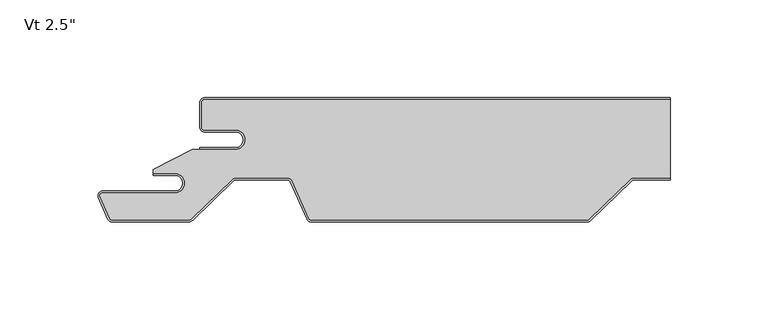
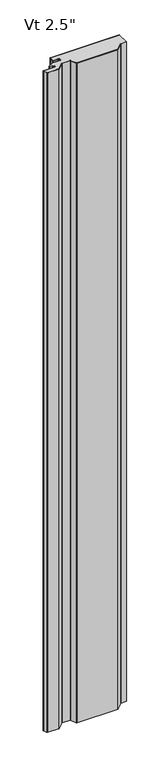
"""IFC4 building model written with IfcOpenShell, lengths in millimetres: plate geometry."""

import ifcopenshell
import ifcopenshell.guid

model = None  # the IFC model being written
_history = None  # IfcOwnerHistory: only IFC2X3 demands one
_inside = {}  # id of a spatial element -> (the spatial element, [elements in it])
_under = {}  # id of a project, library or spatial element -> (it, [spatial elements below it])
_declared = {}  # id of a project -> (the project, [libraries it declares])
_typed = {}  # id of a type object -> (the type object, [elements of that type])
_made_of = {}  # id of a material, layer set ... -> (it, [elements and type objects made of it])


def new_model(schema):
    """Start an empty IFC model of exactly this schema.

    Asked for "IFC4X3", IfcOpenShell would pick the latest addendum, in which some entities
    have other attributes; the version numbers below select the first issue.
    IFC2X3 requires an IfcOwnerHistory on every rooted entity: one is made here for all.
    """
    global model, _history
    if schema == "IFC4X3":
        model = ifcopenshell.file(schema_version=(4, 3, 0, 0))
    else:
        model = ifcopenshell.file(schema=schema)
    _inside.clear()
    _under.clear()
    _declared.clear()
    _typed.clear()
    _made_of.clear()
    _history = None
    if model.schema == "IFC2X3":
        org = make("IfcOrganization", Name="unknown")
        user = make(
            "IfcPersonAndOrganization",
            ThePerson=make("IfcPerson", FamilyName="unknown"),
            TheOrganization=org,
        )
        app = make(
            "IfcApplication",
            ApplicationDeveloper=org,
            Version="unknown",
            ApplicationFullName="unknown",
            ApplicationIdentifier="unknown",
        )
        _history = make(
            "IfcOwnerHistory",
            OwningUser=user,
            OwningApplication=app,
            ChangeAction="ADDED",
            CreationDate=0,
        )
    return model


def make(cls, **values):
    """One entity of the class cls with the attributes given. An attribute that is None is left unset."""
    return model.create_entity(
        cls, **{name: value for name, value in values.items() if value is not None}
    )


def rooted(cls, **values):
    """An entity with a GlobalId (a new one), such as an element, a storey or a relation."""
    return make(cls, GlobalId=ifcopenshell.guid.new(), OwnerHistory=_history, **values)


def si_unit(unit_type, name, prefix=None):
    """IfcSIUnit, for example si_unit("LENGTHUNIT", "METRE", prefix="MILLI")."""
    return make("IfcSIUnit", UnitType=unit_type, Prefix=prefix, Name=name)


def assignment(units):
    """IfcUnitAssignment: the units of a project."""
    return None if units is None else make("IfcUnitAssignment", Units=units)


def point(xyz):
    """IfcCartesianPoint."""
    return None if xyz is None else make("IfcCartesianPoint", Coordinates=xyz)


def direction(xyz):
    """IfcDirection."""
    return None if xyz is None else make("IfcDirection", DirectionRatios=xyz)


def frame(location, z_axis=None, x_axis=None):
    """IfcAxis2Placement3D, a coordinate frame: its origin and axes. An axis left out is left unset."""
    return make(
        "IfcAxis2Placement3D",
        Location=point(location),
        Axis=direction(z_axis),
        RefDirection=direction(x_axis),
    )


def frame_2d(location, x_axis=None):
    """IfcAxis2Placement2D, a coordinate frame in the plane: its origin and x axis."""
    return make(
        "IfcAxis2Placement2D", Location=point(location), RefDirection=direction(x_axis)
    )


def origin():
    """The frame at (0, 0, 0) with its axes left unset."""
    return frame((0.0, 0.0, 0.0))


def origin_with_axes():
    """The frame at (0, 0, 0) with the z axis (0, 0, 1) and the x axis (1, 0, 0) written out."""
    return frame((0.0, 0.0, 0.0), z_axis=(0.0, 0.0, 1.0), x_axis=(1.0, 0.0, 0.0))


def place(relative_to, where):
    """IfcLocalPlacement: puts the frame where relative to a parent placement (None: the world)."""
    return make(
        "IfcLocalPlacement", PlacementRelTo=relative_to, RelativePlacement=where
    )


def context(
    kind, dimensions, precision=None, world=None, true_north=None, identifier=None
):
    """IfcGeometricRepresentationContext, for example the 3D "Model" context."""
    return make(
        "IfcGeometricRepresentationContext",
        ContextIdentifier=identifier,
        ContextType=kind,
        CoordinateSpaceDimension=dimensions,
        Precision=precision,
        WorldCoordinateSystem=world,
        TrueNorth=true_north,
    )


def project(units=None, contexts=None):
    """IfcProject with its units and contexts."""
    return rooted(
        "IfcProject",
        Name="project",
        RepresentationContexts=contexts,
        UnitsInContext=assignment(units),
    )


def spatial(cls, under=None, at=None, **own):
    """A site, building, storey or space (cls), placed at a placement, below another one or the project."""
    s = rooted(cls, ObjectPlacement=at, **own)
    if under is not None:
        _under.setdefault(under.id(), (under, []))[1].append(s)
    return s


def polyline(points):
    """IfcPolyline through the points."""
    return make("IfcPolyline", Points=[point(p) for p in points])


def circle_curve(where, radius):
    """IfcCircle in the frame where."""
    return make("IfcCircle", Position=where, Radius=radius)


def trimmed(basis, trim1, trim2, sense, master):
    """IfcTrimmedCurve: the piece of a basis curve between two trims."""
    return make(
        "IfcTrimmedCurve",
        BasisCurve=basis,
        Trim1=trim1,
        Trim2=trim2,
        SenseAgreement=sense,
        MasterRepresentation=master,
    )


def segment(curve, same_sense, transition):
    """IfcCompositeCurveSegment."""
    return make(
        "IfcCompositeCurveSegment",
        Transition=transition,
        SameSense=same_sense,
        ParentCurve=curve,
    )


def composite_curve(segments, self_intersect=None):
    """IfcCompositeCurve: segments joined end to end."""
    return make("IfcCompositeCurve", Segments=segments, SelfIntersect=self_intersect)


def outline(outer, holes=None, kind="AREA"):
    """IfcArbitraryClosedProfileDef: a profile drawn as a closed curve; with holes, ...WithVoids."""
    if holes is None:
        return make("IfcArbitraryClosedProfileDef", ProfileType=kind, OuterCurve=outer)
    return make(
        "IfcArbitraryProfileDefWithVoids",
        ProfileType=kind,
        OuterCurve=outer,
        InnerCurves=holes,
    )


def extrude(swept, where, along, depth):
    """IfcExtrudedAreaSolid: the profile swept, set in the frame where, extruded along a direction by depth."""
    return make(
        "IfcExtrudedAreaSolid",
        SweptArea=swept,
        Position=where,
        ExtrudedDirection=direction(along),
        Depth=depth,
    )


def shape(context_of_items, identifier, shape_type, items):
    """IfcShapeRepresentation: the items that make up one representation, for example the "Body"."""
    return make(
        "IfcShapeRepresentation",
        ContextOfItems=context_of_items,
        RepresentationIdentifier=identifier,
        RepresentationType=shape_type,
        Items=items,
    )


def source(mapping_origin, context_of_items, identifier, shape_type, items):
    """IfcRepresentationMap: a shape defined once, which mapped items show again and again."""
    return make(
        "IfcRepresentationMap",
        MappingOrigin=mapping_origin,
        MappedRepresentation=shape(context_of_items, identifier, shape_type, items),
    )


def transform(
    local_origin,
    x_axis=None,
    y_axis=None,
    z_axis=None,
    scale=None,
    scale2=None,
    scale3=None,
    uniform=True,
):
    """IfcCartesianTransformationOperator3D, or its non-uniform kind. x_axis, y_axis, z_axis: its Axis1, 2, 3."""
    if uniform:
        return make(
            "IfcCartesianTransformationOperator3D",
            Axis1=direction(x_axis),
            Axis2=direction(y_axis),
            LocalOrigin=point(local_origin),
            Scale=scale,
            Axis3=direction(z_axis),
        )
    return make(
        "IfcCartesianTransformationOperator3DnonUniform",
        Axis1=direction(x_axis),
        Axis2=direction(y_axis),
        LocalOrigin=point(local_origin),
        Scale=scale,
        Axis3=direction(z_axis),
        Scale2=scale2,
        Scale3=scale3,
    )


def mapped(mapping_source, mapping_target):
    """IfcMappedItem: shows the shape of a source again, moved by a transform."""
    return make(
        "IfcMappedItem", MappingSource=mapping_source, MappingTarget=mapping_target
    )


def made_of(thing, what):
    """Note that an element or type object is made of a material, layer set ...; save() writes the relation."""
    if what is not None:
        _made_of.setdefault(what.id(), (what, []))[1].append(thing)
    return thing


def element(
    cls,
    number,
    at=None,
    inside=None,
    cuts=None,
    type_object=None,
    material=None,
    context=None,
    identifier="Body",
    shape_type=None,
    held_by="IfcProductDefinitionShape",
    body=None,
    shapes=None,
    **own,
):
    """One element of the class cls, such as IfcWall. Its Tag is "e" and its number.

    at: its placement. inside: the storey or other place that contains it. cuts: it is an
    opening in that element (IfcRelVoidsElement). A single representation is given by context,
    identifier, shape_type and body (its items); several are given by shapes. held_by: the class
    of the entity that holds the representations. save() writes the other relations.
    """
    e = rooted(cls, Tag="e%d" % number, ObjectPlacement=at, **own)
    if body is not None:
        shapes = [shape(context, identifier, shape_type, body)]
    if shapes is not None:
        e.Representation = make(held_by, Representations=shapes)
    if inside is not None:
        _inside.setdefault(inside.id(), (inside, []))[1].append(e)
    if cuts is not None:
        rooted(
            "IfcRelVoidsElement", RelatingBuildingElement=cuts, RelatedOpeningElement=e
        )
    if type_object is not None:
        _typed.setdefault(type_object.id(), (type_object, []))[1].append(e)
    return made_of(e, material)


def aggregate(whole, parts):
    """IfcRelAggregates: a whole, such as a stair, and the parts it consists of."""
    return rooted("IfcRelAggregates", RelatingObject=whole, RelatedObjects=parts)


def save(model, path):
    """Write the relations noted so far, then the file.

    IfcRelAggregates (storeys below a building ...), IfcRelContainedInSpatialStructure (elements
    in a storey), IfcRelDefinesByType, IfcRelAssociatesMaterial and IfcRelDeclares: one each for
    every whole, place, type object, material and project.
    """
    for whole, parts in _under.values():
        aggregate(whole, parts)
    for where, things in _inside.values():
        rooted(
            "IfcRelContainedInSpatialStructure",
            RelatedElements=things,
            RelatingStructure=where,
        )
    for kind, things in _typed.values():
        rooted("IfcRelDefinesByType", RelatedObjects=things, RelatingType=kind)
    for what, things in _made_of.values():
        rooted("IfcRelAssociatesMaterial", RelatedObjects=things, RelatingMaterial=what)
    for by, libraries in _declared.values():
        rooted("IfcRelDeclares", RelatingContext=by, RelatedDefinitions=libraries)
    model.write(path)


def plate_7790d1d9(model_context):
    return source(origin(), model_context, "Body", "SweptSolid", [
        extrude(outline(composite_curve([segment(trimmed(circle_curve(frame_2d((-101.3499998, -21.4324412)), 4.96875), [point((-101.3499998, -26.4011912))], [point((-101.3499998, -16.4636912))], True, "CARTESIAN"), True, "CONTINUOUS"), segment(polyline([(-101.3499998, -16.4636912), (-117.2249998, -16.4636912)]), True, "CONTINUOUS"), segment(trimmed(circle_curve(frame_2d((-117.2249998, -15.0824412)), 1.38125), [point((-117.2249998, -16.4636912))], [point((-118.6062498, -15.0824412))], False, "CARTESIAN"), True, "CONTINUOUS"), segment(polyline([(-118.6062498, -15.0824412), (-118.6062498, -2.3824412)]), True, "CONTINUOUS"), segment(trimmed(circle_curve(frame_2d((-117.2249998, -2.3824412)), 1.38125), [point((-118.6062498, -2.3824412))], [point((-117.2249998, -1.0011912))], False, "CARTESIAN"), True, "CONTINUOUS"), segment(polyline([(-117.2249998, -1.0011912), (120.3999998, -1.0011912), (120.3999998, -40.9862), (101.8679504, -40.9862)]), True, "CONTINUOUS"), segment(trimmed(circle_curve(frame_2d((101.8679504, -43.5737)), 2.5875), [point((101.8679504, -40.9862))], [point((100.0682998, -41.7145567))], True, "CARTESIAN"), True, "CONTINUOUS"), segment(polyline([(100.0682998, -41.7145567), (78.9973964, -62.1111912)]), True, "CONTINUOUS"), segment(trimmed(circle_curve(frame_2d((78.0367133, -61.11875)), 1.38125), [point((78.9973964, -62.1111912))], [point((78.0367133, -62.5))], False, "CARTESIAN"), True, "CONTINUOUS"), segment(polyline([(78.0367133, -62.5), (-62.6999941, -62.5)]), True, "CONTINUOUS"), segment(trimmed(circle_curve(frame_2d((-62.6999941, -61.11875)), 1.38125), [point((-62.6999941, -62.5))], [point((-63.9629944, -61.6779296))], False, "CARTESIAN"), True, "CONTINUOUS"), segment(polyline([(-63.9629944, -61.6779296), (-72.4422193, -42.5261871)]), True, "CONTINUOUS"), segment(trimmed(circle_curve(frame_2d((-74.8082017, -43.5737)), 2.5875), [point((-72.4422193, -42.5261871))], [point((-74.8082017, -40.9862))], True, "CARTESIAN"), True, "CONTINUOUS"), segment(polyline([(-74.8082017, -40.9862), (-101.3320496, -40.9862)]), True, "CONTINUOUS"), segment(trimmed(circle_curve(frame_2d((-101.3320496, -43.5737)), 2.5875), [point((-101.3320496, -40.9862))], [point((-103.1317002, -41.7145567))], True, "CARTESIAN"), True, "CONTINUOUS"), segment(polyline([(-103.1317002, -41.7145567), (-123.993943, -61.9092077)]), True, "CONTINUOUS"), segment(trimmed(circle_curve(frame_2d((-125.4536944, -60.4012)), 2.0988), [point((-123.993943, -61.9092077))], [point((-125.4536944, -62.5))], False, "CARTESIAN"), True, "CONTINUOUS"), segment(polyline([(-125.4536944, -62.5), (-164.2999941, -62.5)]), True, "CONTINUOUS"), segment(trimmed(circle_curve(frame_2d((-164.2999941, -61.11875)), 1.38125), [point((-164.2999941, -62.5))], [point((-165.5629944, -61.6779296))], False, "CARTESIAN"), True, "CONTINUOUS"), segment(polyline([(-165.5629944, -61.6779296), (-170.4824051, -50.5666208)]), True, "CONTINUOUS"), segment(trimmed(circle_curve(frame_2d((-169.2194048, -50.0074412)), 1.38125), [point((-170.4824051, -50.5666208))], [point((-169.2194048, -48.6261912))], False, "CARTESIAN"), True, "CONTINUOUS"), segment(polyline([(-169.2194048, -48.6261912), (-132.3062498, -48.6261912)]), True, "CONTINUOUS"), segment(trimmed(circle_curve(frame_2d((-132.3062498, -43.6574412)), 4.96875), [point((-132.3062498, -48.6261912))], [point((-132.3062498, -38.6886912))], True, "CARTESIAN"), True, "CONTINUOUS"), segment(polyline([(-132.3062498, -38.6886912), (-143.4187498, -38.6886912), (-143.4187498, -36.533822), (-123.597661, -26.4011912), (-101.3499998, -26.4011912)]), True, "CONTINUOUS")], self_intersect=False)), origin_with_axes(), (0.0, 0.0, 1.0), 2400.0),
        extrude(outline(composite_curve([segment(polyline([(-119.6062498, -25.4), (-101.3499998, -25.4)]), True, "CONTINUOUS"), segment(trimmed(circle_curve(frame_2d((-101.3499998, -21.43125)), 3.96875), [point((-101.3499998, -25.4))], [point((-101.3499998, -17.4625))], True, "CARTESIAN"), True, "CONTINUOUS"), segment(polyline([(-101.3499998, -17.4625), (-117.2249998, -17.4625)]), True, "CONTINUOUS"), segment(trimmed(circle_curve(frame_2d((-117.2249998, -15.08125)), 2.38125), [point((-117.2249998, -17.4625))], [point((-119.6062498, -15.08125))], False, "CARTESIAN"), True, "CONTINUOUS"), segment(polyline([(-119.6062498, -15.08125), (-119.6062498, -2.38125)]), True, "CONTINUOUS"), segment(trimmed(circle_curve(frame_2d((-117.2249998, -2.38125)), 2.38125), [point((-119.6062498, -2.38125))], [point((-117.2249998, 0.0))], False, "CARTESIAN"), True, "CONTINUOUS"), segment(polyline([(-117.2249998, 0.0), (120.3999998, 0.0), (120.3999998, -1.0), (-117.2249998, -1.0)]), True, "CONTINUOUS"), segment(trimmed(circle_curve(frame_2d((-117.2249998, -2.38125)), 1.38125), [point((-117.2249998, -1.0))], [point((-118.6062498, -2.38125))], True, "CARTESIAN"), True, "CONTINUOUS"), segment(polyline([(-118.6062498, -2.38125), (-118.6062498, -15.08125)]), True, "CONTINUOUS"), segment(trimmed(circle_curve(frame_2d((-117.2249998, -15.08125)), 1.38125), [point((-118.6062498, -15.08125))], [point((-117.2249998, -16.4625))], True, "CARTESIAN"), True, "CONTINUOUS"), segment(polyline([(-117.2249998, -16.4625), (-101.3499998, -16.4625)]), True, "CONTINUOUS"), segment(trimmed(circle_curve(frame_2d((-101.3499998, -21.43125)), 4.96875), [point((-101.3499998, -16.4625))], [point((-101.3499998, -26.4))], False, "CARTESIAN"), True, "CONTINUOUS"), segment(polyline([(-101.3499998, -26.4), (-119.6062498, -26.4), (-119.6062498, -25.4)]), True, "CONTINUOUS")], self_intersect=False)), origin_with_axes(), (0.0, 0.0, 1.0), 2400.0),
        extrude(outline(composite_curve([segment(trimmed(circle_curve(frame_2d((-132.3062498, -43.6574412)), 3.96875), [point((-132.3062498, -47.6261912))], [point((-132.3062498, -39.6886912))], True, "CARTESIAN"), True, "CONTINUOUS"), segment(polyline([(-132.3062498, -39.6886912), (-143.4187498, -39.6886912), (-143.4187498, -38.6886912), (-132.3062498, -38.6886912)]), True, "CONTINUOUS"), segment(trimmed(circle_curve(frame_2d((-132.3062498, -43.6574412)), 4.96875), [point((-132.3062498, -38.6886912))], [point((-132.3062498, -48.6261912))], False, "CARTESIAN"), True, "CONTINUOUS"), segment(polyline([(-132.3062498, -48.6261912), (-169.2194048, -48.6261912)]), True, "CONTINUOUS"), segment(trimmed(circle_curve(frame_2d((-169.2194048, -50.0074412)), 1.38125), [point((-169.2194048, -48.6261912))], [point((-170.4824051, -50.5666208))], True, "CARTESIAN"), True, "CONTINUOUS"), segment(polyline([(-170.4824051, -50.5666208), (-165.5629944, -61.6779296)]), True, "CONTINUOUS"), segment(trimmed(circle_curve(frame_2d((-164.2999941, -61.11875)), 1.38125), [point((-165.5629944, -61.6779296))], [point((-164.2999941, -62.5))], True, "CARTESIAN"), True, "CONTINUOUS"), segment(polyline([(-164.2999941, -62.5), (-125.4536944, -62.5)]), True, "CONTINUOUS"), segment(trimmed(circle_curve(frame_2d((-125.4536944, -60.4012)), 2.0988), [point((-125.4536944, -62.5))], [point((-123.993943, -61.9092077))], True, "CARTESIAN"), True, "CONTINUOUS"), segment(polyline([(-123.993943, -61.9092077), (-103.1317002, -41.7145567)]), True, "CONTINUOUS"), segment(trimmed(circle_curve(frame_2d((-101.3320496, -43.5737)), 2.5875), [point((-103.1317002, -41.7145567))], [point((-101.3320496, -40.9862))], False, "CARTESIAN"), True, "CONTINUOUS"), segment(polyline([(-101.3320496, -40.9862), (-74.8082017, -40.9862)]), True, "CONTINUOUS"), segment(trimmed(circle_curve(frame_2d((-74.8082017, -43.5737)), 2.5875), [point((-74.8082017, -40.9862))], [point((-72.4422193, -42.5261871))], False, "CARTESIAN"), True, "CONTINUOUS"), segment(polyline([(-72.4422193, -42.5261871), (-63.9629944, -61.6779296)]), True, "CONTINUOUS"), segment(trimmed(circle_curve(frame_2d((-62.6999941, -61.11875)), 1.38125), [point((-63.9629944, -61.6779296))], [point((-62.6999941, -62.5))], True, "CARTESIAN"), True, "CONTINUOUS"), segment(polyline([(-62.6999941, -62.5), (78.0367133, -62.5)]), True, "CONTINUOUS"), segment(trimmed(circle_curve(frame_2d((78.0367133, -61.11875)), 1.38125), [point((78.0367133, -62.5))], [point((78.9973964, -62.1111912))], True, "CARTESIAN"), True, "CONTINUOUS"), segment(polyline([(78.9973964, -62.1111912), (100.0682998, -41.7145567)]), True, "CONTINUOUS"), segment(trimmed(circle_curve(frame_2d((101.8679504, -43.5737)), 2.5875), [point((100.0682998, -41.7145567))], [point((101.8679504, -40.9862))], False, "CARTESIAN"), True, "CONTINUOUS"), segment(polyline([(101.8679504, -40.9862), (120.3999998, -40.9862), (120.3999998, -41.9862), (101.8679504, -41.9862)]), True, "CONTINUOUS"), segment(trimmed(circle_curve(frame_2d((101.8679504, -43.5737)), 1.5875), [point((101.8679504, -41.9862))], [point((100.7638169, -42.4330662))], True, "CARTESIAN"), True, "CONTINUOUS"), segment(polyline([(100.7638169, -42.4330662), (79.6929135, -62.8297007)]), True, "CONTINUOUS"), segment(trimmed(circle_curve(frame_2d((78.0367133, -61.11875)), 2.38125), [point((79.6929135, -62.8297007))], [point((78.0367133, -63.5))], False, "CARTESIAN"), True, "CONTINUOUS"), segment(polyline([(78.0367133, -63.5), (-62.6999941, -63.5)]), True, "CONTINUOUS"), segment(trimmed(circle_curve(frame_2d((-62.6999941, -61.11875)), 2.38125), [point((-62.6999941, -63.5))], [point((-64.8773838, -62.0827655))], False, "CARTESIAN"), True, "CONTINUOUS"), segment(polyline([(-64.8773838, -62.0827655), (-73.3566086, -42.931023)]), True, "CONTINUOUS"), segment(trimmed(circle_curve(frame_2d((-74.8082017, -43.5737)), 1.5875), [point((-73.3566086, -42.931023))], [point((-74.8082017, -41.9862))], True, "CARTESIAN"), True, "CONTINUOUS"), segment(polyline([(-74.8082017, -41.9862), (-101.3320496, -41.9862)]), True, "CONTINUOUS"), segment(trimmed(circle_curve(frame_2d((-101.3320496, -43.5737)), 1.5875), [point((-101.3320496, -41.9862))], [point((-102.4361831, -42.4330662))], True, "CARTESIAN"), True, "CONTINUOUS"), segment(polyline([(-102.4361831, -42.4330662), (-123.2984258, -62.6277172)]), True, "CONTINUOUS"), segment(trimmed(circle_curve(frame_2d((-125.4536944, -60.4012)), 3.0988), [point((-123.2984258, -62.6277172))], [point((-125.4536944, -63.5))], False, "CARTESIAN"), True, "CONTINUOUS"), segment(polyline([(-125.4536944, -63.5), (-164.2999941, -63.5)]), True, "CONTINUOUS"), segment(trimmed(circle_curve(frame_2d((-164.2999941, -61.11875)), 2.38125), [point((-164.2999941, -63.5))], [point((-166.4773838, -62.0827655))], False, "CARTESIAN"), True, "CONTINUOUS"), segment(polyline([(-166.4773838, -62.0827655), (-171.3967944, -50.9714567)]), True, "CONTINUOUS"), segment(trimmed(circle_curve(frame_2d((-169.2194048, -50.0074412)), 2.38125), [point((-171.3967944, -50.9714567))], [point((-169.2194048, -47.6261912))], False, "CARTESIAN"), True, "CONTINUOUS"), segment(polyline([(-169.2194048, -47.6261912), (-132.3062498, -47.6261912)]), True, "CONTINUOUS")], self_intersect=False)), origin_with_axes(), (0.0, 0.0, 1.0), 2400.0),
    ])


if __name__ == "__main__":
    model = new_model("IFC4")
    model_context = context("Model", 3, world=origin())
    ifc_project = project(units=[si_unit("LENGTHUNIT", "METRE", prefix="MILLI")], contexts=[model_context])
    site = spatial("IfcSite", under=ifc_project)
    building = spatial("IfcBuilding", under=site)
    placement = place(None, origin())
    plate_shape = plate_7790d1d9(model_context)
    element("IfcPlate", 1, ObjectType="KIP-12-DWR-R19-CP-Vt-A : Vt 2.5\"", at=placement, inside=building, context=model_context, shape_type="MappedRepresentation", body=[
        mapped(plate_shape, transform((0.0, 0.0, 0.0), x_axis=(1.0, 0.0, 0.0), y_axis=(0.0, 1.0, 0.0), z_axis=(0.0, 0.0, 1.0))),
    ])
    save(model, "model.ifc")
